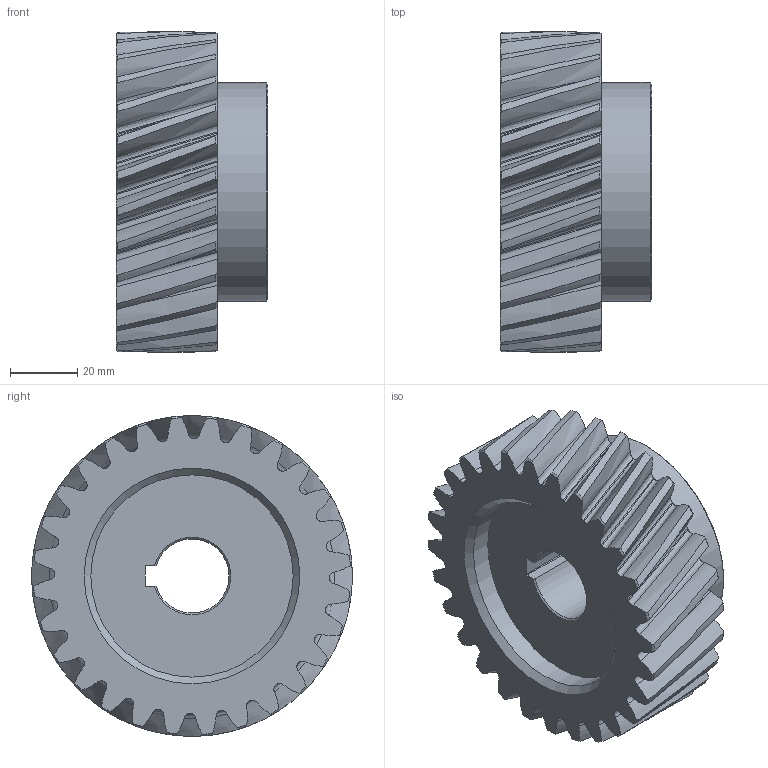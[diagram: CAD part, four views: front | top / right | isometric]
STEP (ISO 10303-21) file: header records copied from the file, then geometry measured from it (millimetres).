
FILE_DESCRIPTION(('STEP AP214'), '1');
FILE_NAME('GH3-T28D22 - Øåñòåðíÿ', '2018-06-14T13:35:28', (''), (''), 'ASCON STEP Converter 1.3', 'ASCON Math Kernel', '');
FILE_SCHEMA(('AUTOMOTIVE_DESIGN { 1 0 10303 214 3 1 1}'));
Length unit declared in the file: millimetre
Products named in the file (1): GH3-T28D22
Bounding box: 45 x 95.11 x 95.11 mm (x, y, z)
Volume: 197514.6 mm3; surface area: 34925.7 mm2
Topology: 1 solids, 1 shells, 240 faces, 709 edges, 476 vertices
Faces by surface type: bspline 112, cylinder 61, cone 60, plane 7
Full cylindrical faces by diameter (mm): 60 x1, 65 x1
Entity records: 16982 total; most frequent: CARTESIAN_POINT 9674, ORIENTED_EDGE 1404, EDGE_CURVE 702, DIRECTION 634, B_SPLINE_CURVE_WITH_KNOTS 509, VERTEX_POINT 470, AXIS2_PLACEMENT_3D 311, EDGE_LOOP 248
